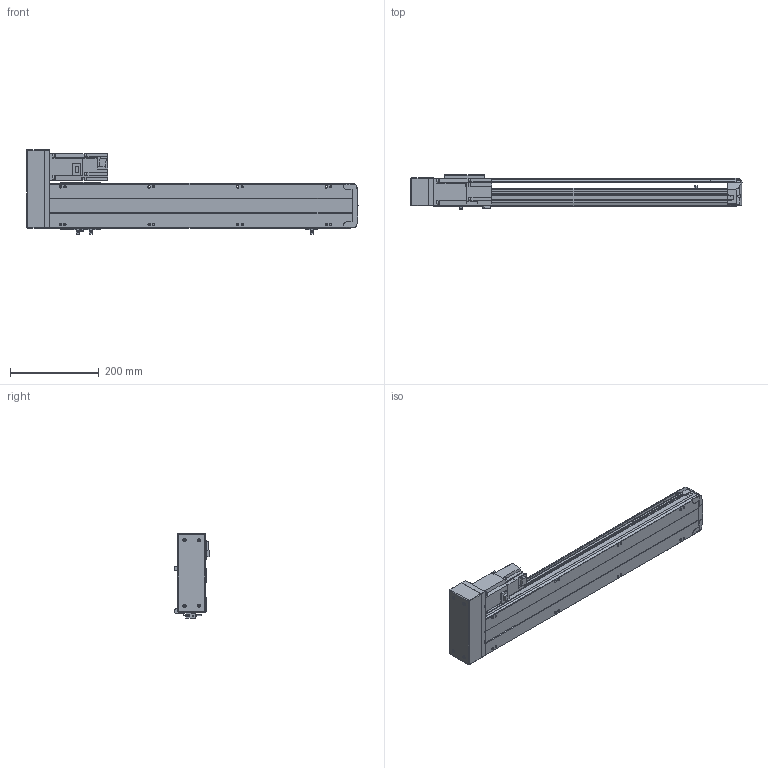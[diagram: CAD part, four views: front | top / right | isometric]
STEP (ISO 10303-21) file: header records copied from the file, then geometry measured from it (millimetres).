
FILE_DESCRIPTION(/* description */ ('STEP AP214'),/* implementation_level */ '2;1');
FILE_NAME(/* name */ 'PSS120-L10-S500-BL-T40-C1-N(0)',/* time_stamp */ '2022-06-06T02:28:25+02:00',/* author */ ('License CC BY-ND 4.0'),/* organization */ ('CADENAS'),/* preprocessor_version */ 'ST-DEVELOPER v18.102',/* originating_system */ 'PARTsolutions',/* authorisation */ ' ');
FILE_SCHEMA (('AUTOMOTIVE_DESIGN {1 0 10303 214 3 1 1}'));
Length unit declared in the file: millimetre
Products named in the file (8): PSS120-L10-S500-BL-T40-C1-N(0); PSS120-S500-BL-N_S; T40-p1; PSS120BL-N_h; PSS120-N_sensor; PSS120-BL-C1-N_sl; PSS120-N_Q; PSS120-S500-BL-C1-N_body
Assembly tree (9 placements, depth 2):
  PSS120-L10-S500-BL-T40-C1-N(0)
    PSS120-S500-BL-N_S
    T40-p1
    PSS120BL-N_h
    PSS120-N_sensor  x3
    PSS120-BL-C1-N_sl
    PSS120-N_Q
    PSS120-S500-BL-C1-N_body
Bounding box: 749.35 x 76.8 x 191.2 mm (x, y, z)
Volume: 3208904.9 mm3; surface area: 539881.4 mm2
Topology: 9 solids, 9 shells, 816 faces, 2189 edges, 1448 vertices
Faces by surface type: plane 583, cylinder 213, cone 16, sphere 4
Full cylindrical faces by diameter (mm): 2.8 x3, 4 x4, 4.134 x12, 4.4 x2, 4.5 x4, 4.6 x3, 5 x6, 5.5 x15, 7 x2, 7.4 x4, 8 x4, 8.5 x12, 14 x1, 28 x1, 32 x2, 50 x1
Entity records: 21937 total; most frequent: CARTESIAN_POINT 3951, DIRECTION 3655, ORIENTED_EDGE 3586, EDGE_CURVE 1793, LINE 1303, VECTOR 1303, VERTEX_POINT 1236, AXIS2_PLACEMENT_3D 1176
